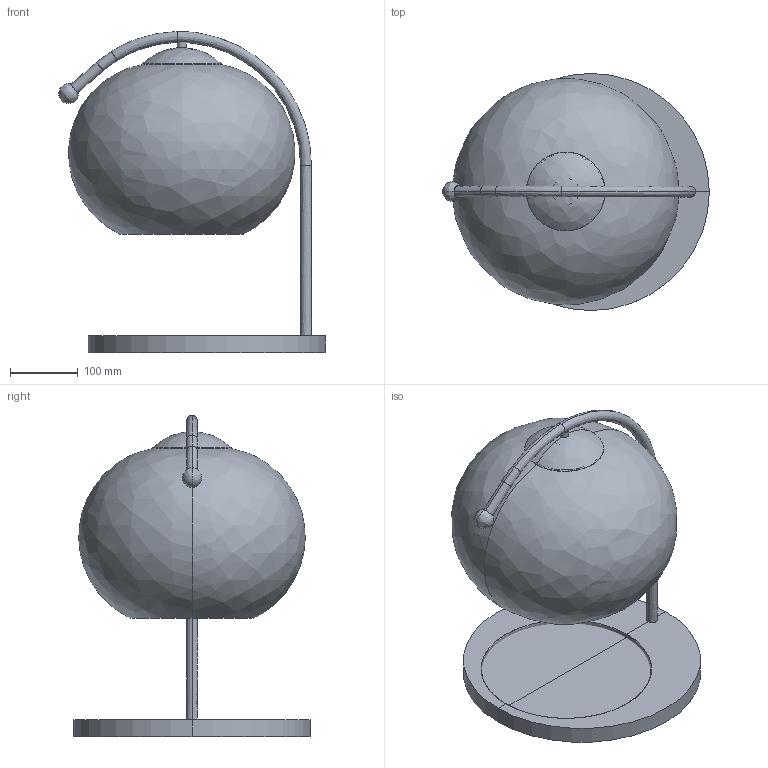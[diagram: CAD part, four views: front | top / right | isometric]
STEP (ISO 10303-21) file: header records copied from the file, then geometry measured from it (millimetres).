
FILE_DESCRIPTION(/* description */ (''),/* implementation_level */ '2;1');
FILE_NAME(/* name */ 'Mauri Candle Warmer Lamp',/* time_stamp */ '2026-05-18T09:57:03+08:00',/* author */ (''),/* organization */ (''),/* preprocessor_version */ 'ST-DEVELOPER v19.2',/* originating_system */ 'Rhino 8.25',/* authorisation */ '');
FILE_SCHEMA (('CONFIG_CONTROL_DESIGN'));
Length unit declared in the file: millimetre
Products named in the file (1): Document
Bounding box: 393.64 x 350 x 473.97 mm (x, y, z)
Volume: 3068332.1 mm3; surface area: 878142.5 mm2
Topology: 6 solids, 8 shells, 148 faces, 296 edges, 151 vertices
Faces by surface type: bspline 116, plane 22, cylinder 10
Entity records: 5146 total; most frequent: CARTESIAN_POINT 2632, ORIENTED_EDGE 570, DIRECTION 334, EDGE_CURVE 288, AXIS2_PLACEMENT_3D 183, VERTEX_POINT 151, ADVANCED_FACE 148, FACE_OUTER_BOUND 148
